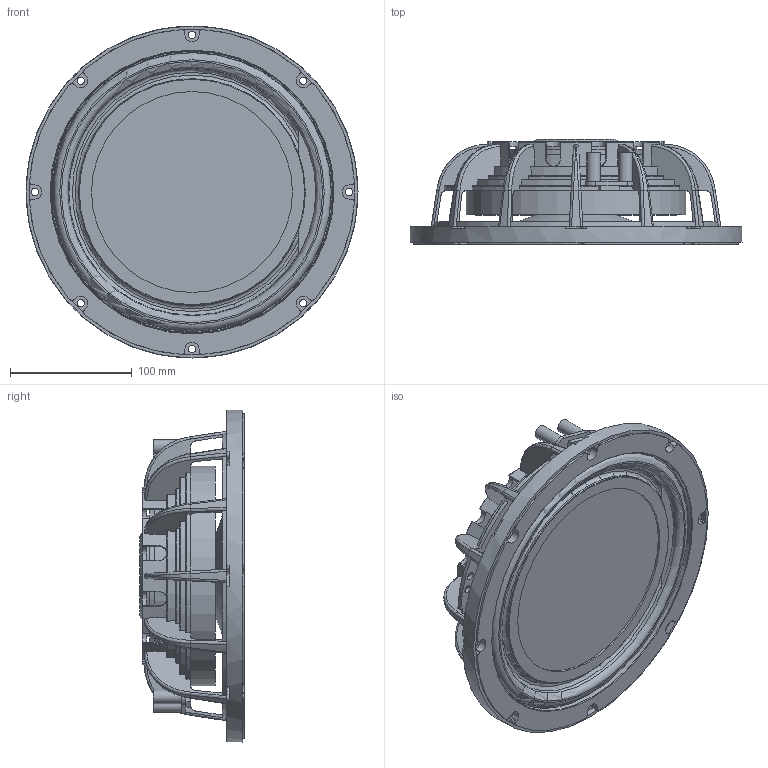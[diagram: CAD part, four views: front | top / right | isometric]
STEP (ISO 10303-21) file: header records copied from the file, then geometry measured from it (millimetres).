
FILE_DESCRIPTION(/* description */ (''),/* implementation_level */ '2;1');
FILE_NAME(/* name */ 'ls10-44.step',/* time_stamp */ '2026-06-22T17:44:18-04:00',/* author */ (''),/* organization */ (''),/* preprocessor_version */ 'ST-DEVELOPER v20.1',/* originating_system */ 'Autodesk Translation Framework v15.8.0.0',/* authorisation */ '');
FILE_SCHEMA (('AUTOMOTIVE_DESIGN { 1 0 10303 214 3 1 1 }'));
Length unit declared in the file: millimetre
Products named in the file (1): LS10-44
Bounding box: 272.36 x 86.03 x 272.36 mm (x, y, z)
Volume: 1778261 mm3; surface area: 381619.2 mm2
Topology: 1 solids, 3 shells, 577 faces, 1673 edges, 1078 vertices
Faces by surface type: plane 204, cylinder 190, torus 82, bspline 62, cone 39
Full cylindrical faces by diameter (mm): 6.03 x8, 6.633 x4, 11.055 x4, 64.973 x1, 88.44 x1, 99.549 x1, 110.45 x1, 119.595 x1, 141.705 x1, 154.569 x1, 164.82 x1, 165.423 x1, 180.297 x1, 185.925 x1, 186.829 x1, 231.954 x1, 238.185 x1, 267.33 x1, 272.355 x1
Entity records: 31910 total; most frequent: CARTESIAN_POINT 17265, ORIENTED_EDGE 3346, DIRECTION 2811, EDGE_CURVE 1673, AXIS2_PLACEMENT_3D 1130, VERTEX_POINT 1078, EDGE_LOOP 625, CIRCLE 614
